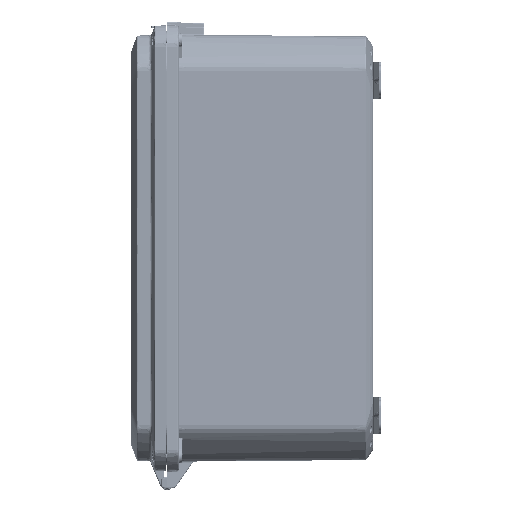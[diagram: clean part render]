
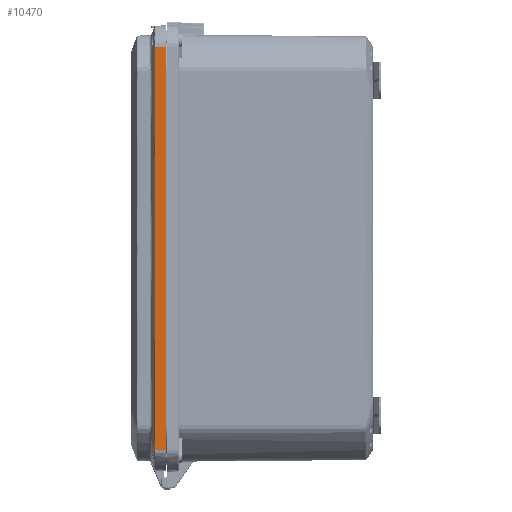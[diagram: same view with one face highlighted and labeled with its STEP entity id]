
A CAD part, left-side view. The second image highlights one B-rep face of the part: STEP entity #10470.
In plain terms, the highlighted planar face has unit normal (-0.999, 0.052, 0).
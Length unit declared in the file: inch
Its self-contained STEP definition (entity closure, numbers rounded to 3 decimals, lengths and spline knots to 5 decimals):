
#3748 = CARTESIAN_POINT ( 'NONE',  ( -8.60091, 0.36425, 0. ) ) ;
#10470 = ADVANCED_FACE ( 'NONE', ( #224920 ), #226349, .T. ) ;
#25926 = VERTEX_POINT ( 'NONE', #207826 ) ;
#26430 = EDGE_CURVE ( 'NONE', #64432, #191763, #260447, .T. ) ;
#30394 = B_SPLINE_CURVE_WITH_KNOTS ( 'NONE', 3,
 ( #211938, #236995, #35031, #102810 ),
 .UNSPECIFIED., .F., .F.,
 ( 4, 4 ),
 ( 0., 1. ),
 .UNSPECIFIED. ) ;
#31774 = VECTOR ( 'NONE', #266930, 39.37008 ) ;
#35031 = CARTESIAN_POINT ( 'NONE',  ( -8.60092, 0.3641, 2.29682 ) ) ;
#64432 = VERTEX_POINT ( 'NONE', #132554 ) ;
#67244 = CARTESIAN_POINT ( 'NONE',  ( -8.60093, 0.36396, -4.59364 ) ) ;
#71966 = ORIENTED_EDGE ( 'NONE', *, *, #233347, .T. ) ;
#75606 = VERTEX_POINT ( 'NONE', #109005 ) ;
#90195 = CARTESIAN_POINT ( 'NONE',  ( -8.62, 0., -6.89046 ) ) ;
#100450 = VERTEX_POINT ( 'NONE', #273267 ) ;
#102810 = CARTESIAN_POINT ( 'NONE',  ( -8.60091, 0.36425, 0. ) ) ;
#109005 = CARTESIAN_POINT ( 'NONE',  ( -8.60091, 0.36425, 0. ) ) ;
#110656 = CARTESIAN_POINT ( 'NONE',  ( -8.62, 0., -6.89046 ) ) ;
#128689 = EDGE_LOOP ( 'NONE', ( #157829, #168094, #71966, #204846, #136086 ) ) ;
#131483 = LINE ( 'NONE', #90195, #179472 ) ;
#132446 = EDGE_CURVE ( 'NONE', #75606, #100450, #240375, .T. ) ;
#132554 = CARTESIAN_POINT ( 'NONE',  ( -8.60093, 0.36382, 6.89046 ) ) ;
#133483 = DIRECTION ( 'NONE',  ( -0.999, 0.052, 0. ) ) ;
#136086 = ORIENTED_EDGE ( 'NONE', *, *, #26430, .F. ) ;
#156805 = VECTOR ( 'NONE', #171959, 39.37008 ) ;
#157829 = ORIENTED_EDGE ( 'NONE', *, *, #231610, .T. ) ;
#162908 = CARTESIAN_POINT ( 'NONE',  ( -8.60092, 0.3641, -2.29682 ) ) ;
#162960 = AXIS2_PLACEMENT_3D ( 'NONE', #227796, #133483, #179167 ) ;
#168094 = ORIENTED_EDGE ( 'NONE', *, *, #132446, .T. ) ;
#171959 = DIRECTION ( 'NONE',  ( -0.052, -0.999, 0. ) ) ;
#179167 = DIRECTION ( 'NONE',  ( -0.052, -0.999, 0. ) ) ;
#179472 = VECTOR ( 'NONE', #268579, 39.37008 ) ;
#182140 = CARTESIAN_POINT ( 'NONE',  ( -8.60093, 0.36382, -6.89046 ) ) ;
#191763 = VERTEX_POINT ( 'NONE', #233547 ) ;
#204141 = EDGE_CURVE ( 'NONE', #25926, #191763, #131483, .T. ) ;
#204846 = ORIENTED_EDGE ( 'NONE', *, *, #204141, .T. ) ;
#207826 = CARTESIAN_POINT ( 'NONE',  ( -8.62, 0., -6.89046 ) ) ;
#211938 = CARTESIAN_POINT ( 'NONE',  ( -8.60093, 0.36382, 6.89046 ) ) ;
#224208 = LINE ( 'NONE', #110656, #31774 ) ;
#224920 = FACE_OUTER_BOUND ( 'NONE', #128689, .T. ) ;
#226349 = PLANE ( 'NONE',  #162960 ) ;
#227796 = CARTESIAN_POINT ( 'NONE',  ( -8.62, 0., -6.89046 ) ) ;
#231610 = EDGE_CURVE ( 'NONE', #64432, #75606, #30394, .T. ) ;
#233347 = EDGE_CURVE ( 'NONE', #100450, #25926, #224208, .T. ) ;
#233547 = CARTESIAN_POINT ( 'NONE',  ( -8.62, 0., 6.89046 ) ) ;
#236995 = CARTESIAN_POINT ( 'NONE',  ( -8.60093, 0.36396, 4.59364 ) ) ;
#240375 = B_SPLINE_CURVE_WITH_KNOTS ( 'NONE', 3,
 ( #3748, #162908, #67244, #182140 ),
 .UNSPECIFIED., .F., .F.,
 ( 4, 4 ),
 ( 0., 1. ),
 .UNSPECIFIED. ) ;
#256139 = CARTESIAN_POINT ( 'NONE',  ( -8.62, 0., 6.89046 ) ) ;
#260447 = LINE ( 'NONE', #256139, #156805 ) ;
#266930 = DIRECTION ( 'NONE',  ( -0.052, -0.999, 0. ) ) ;
#268579 = DIRECTION ( 'NONE',  ( 0., 0., 1. ) ) ;
#273267 = CARTESIAN_POINT ( 'NONE',  ( -8.60093, 0.36382, -6.89046 ) ) ;
